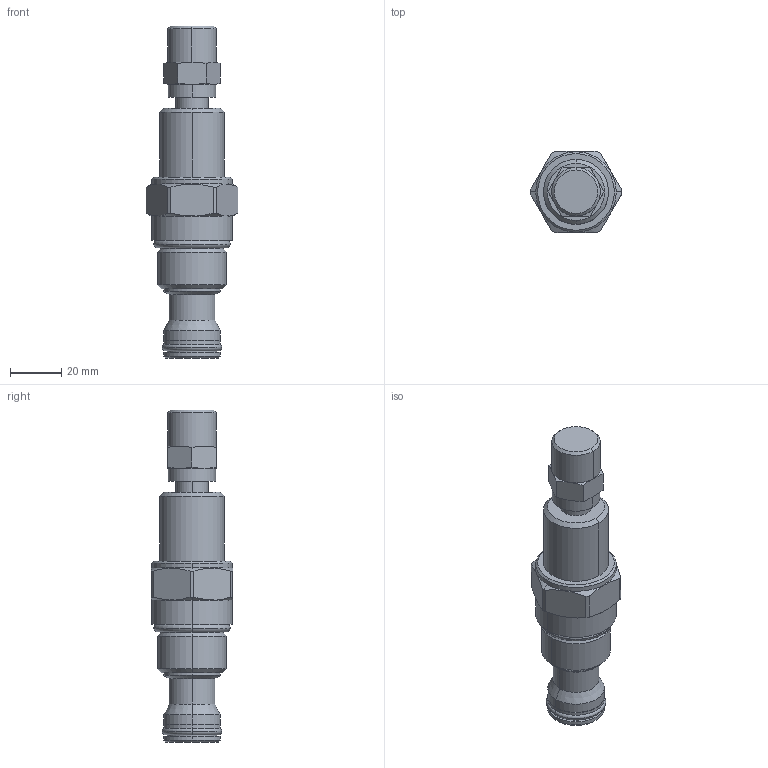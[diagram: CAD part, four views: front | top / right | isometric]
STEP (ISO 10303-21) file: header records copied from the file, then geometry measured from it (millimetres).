
FILE_DESCRIPTION((''),'2;1');
FILE_NAME('RV12-2XL','2014-04-10T',('mg1'),(''),'PRO/ENGINEER BY PARAMETRIC TECHNOLOGY CORPORATION, 2013230','PRO/ENGINEER BY PARAMETRIC TECHNOLOGY CORPORATION, 2013230','');
FILE_SCHEMA(('CONFIG_CONTROL_DESIGN'));
Length unit declared in the file: millimetre
Products named in the file (1): RV12-2XL
Bounding box: 35.81 x 31.75 x 129.91 mm (x, y, z)
Volume: 62072.8 mm3; surface area: 13096.4 mm2
Topology: 1 solids, 1 shells, 110 faces, 240 edges, 140 vertices
Faces by surface type: cylinder 40, cone 32, plane 22, torus 16
Entity records: 3195 total; most frequent: CARTESIAN_POINT 717, DIRECTION 558, ORIENTED_EDGE 480, AXIS2_PLACEMENT_3D 240, EDGE_CURVE 240, VERTEX_POINT 140, CIRCLE 130, EDGE_LOOP 118
